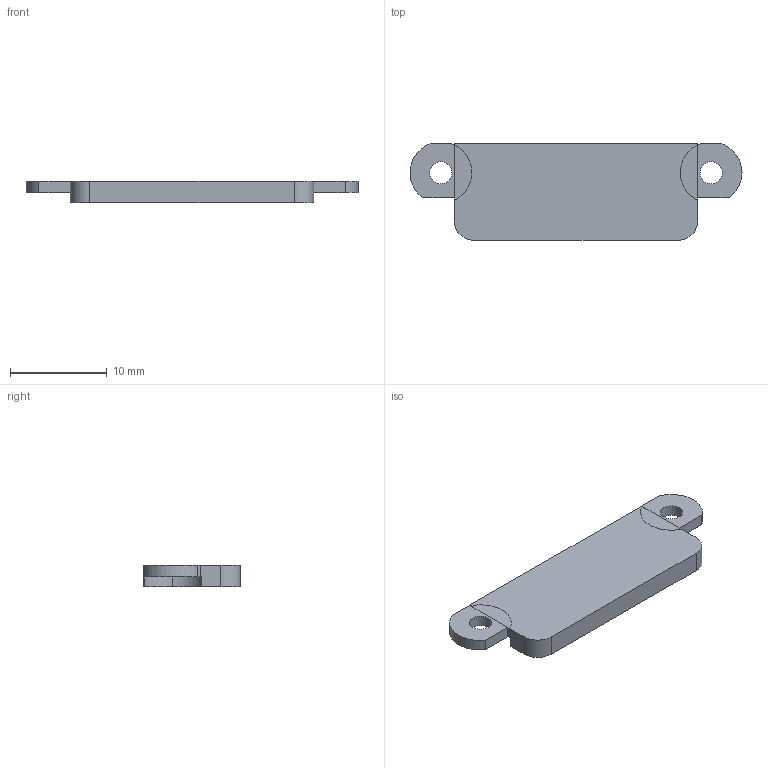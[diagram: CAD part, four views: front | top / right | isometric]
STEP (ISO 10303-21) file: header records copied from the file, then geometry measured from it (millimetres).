
FILE_DESCRIPTION(('Open CASCADE Model'),'2;1');
FILE_NAME('R36_P16_COMPACT_ANTENNA_END_CLAMP','2026-09-15T13:10:23',( 'Author'),('Open CASCADE'),'Open CASCADE STEP processor 7.9', 'build123d','Unknown');
FILE_SCHEMA(('AUTOMOTIVE_DESIGN { 1 0 10303 214 1 1 1 1 }'));
Length unit declared in the file: millimetre
Products named in the file (1): R36_P16_COMPACT_ANTENNA_END_CLAMP
Bounding box: 34.4 x 10 x 2.2 mm (x, y, z)
Volume: 579.5 mm3; surface area: 764.5 mm2
Topology: 1 solids, 1 shells, 32 faces, 85 edges, 55 vertices
Faces by surface type: plane 18, cylinder 14
Full cylindrical faces by diameter (mm): 2.3 x2
Entity records: 2111 total; most frequent: CARTESIAN_POINT 485, DIRECTION 284, ORIENTED_EDGE 170, PCURVE 170, DEFINITIONAL_REPRESENTATION 170, LINE 122, VECTOR 122, EDGE_CURVE 85
